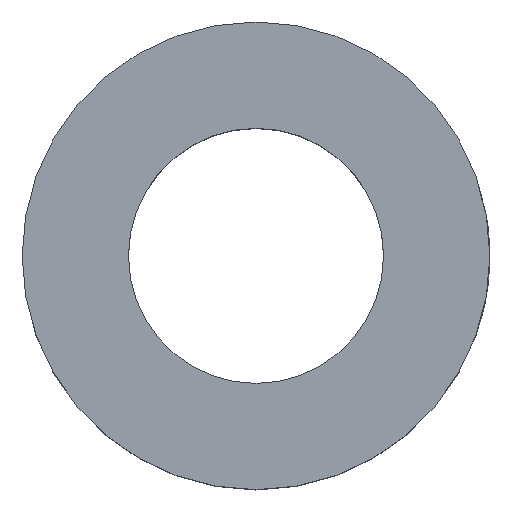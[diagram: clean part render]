
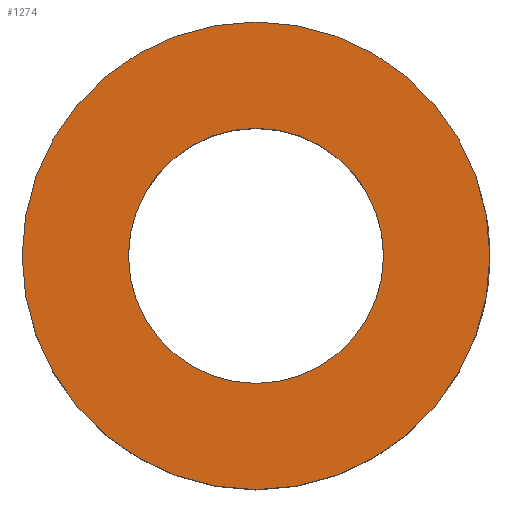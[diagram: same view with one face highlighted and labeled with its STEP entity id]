
A CAD part, top view. The second image highlights one B-rep face of the part: STEP entity #1274.
In plain terms, the highlighted planar face has unit normal (0, 0, 1).
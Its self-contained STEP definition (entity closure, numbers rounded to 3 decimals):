
#372 = CIRCLE ( 'NONE', #481, 4.5 ) ;
#376 = DIRECTION ( 'NONE',  ( 1., 0., 0. ) ) ;
#399 = DIRECTION ( 'NONE',  ( 0., 0., 1. ) ) ;
#400 = AXIS2_PLACEMENT_3D ( 'NONE', #478, #399, #376 ) ;
#436 = CARTESIAN_POINT ( 'NONE',  ( 8.25, 0., 6. ) ) ;
#441 = CARTESIAN_POINT ( 'NONE',  ( -4.5, 0., 6. ) ) ;
#442 = CARTESIAN_POINT ( 'NONE',  ( 4.5, 0., 6. ) ) ;
#476 = DIRECTION ( 'NONE',  ( 1., 0., 0. ) ) ;
#477 = CIRCLE ( 'NONE', #400, 8.25 ) ;
#478 = CARTESIAN_POINT ( 'NONE',  ( 0., 0., 6. ) ) ;
#479 = DIRECTION ( 'NONE',  ( 0., 0., 1. ) ) ;
#480 = CARTESIAN_POINT ( 'NONE',  ( 0., 0., 6. ) ) ;
#481 = AXIS2_PLACEMENT_3D ( 'NONE', #480, #479, #476 ) ;
#687 = FACE_OUTER_BOUND ( 'NONE', #1197, .T. ) ;
#715 = AXIS2_PLACEMENT_3D ( 'NONE', #770, #769, #768 ) ;
#720 = PLANE ( 'NONE',  #715 ) ;
#734 = CARTESIAN_POINT ( 'NONE',  ( -8.25, 0., 6. ) ) ;
#768 = DIRECTION ( 'NONE',  ( 1., 0., 0. ) ) ;
#769 = DIRECTION ( 'NONE',  ( 0., 0., 1. ) ) ;
#770 = CARTESIAN_POINT ( 'NONE',  ( 0., 0., 6. ) ) ;
#810 = FACE_BOUND ( 'NONE', #1194, .T. ) ;
#1065 = DIRECTION ( 'NONE',  ( 1., 0., 0. ) ) ;
#1066 = DIRECTION ( 'NONE',  ( 0., 0., 1. ) ) ;
#1067 = CARTESIAN_POINT ( 'NONE',  ( 0., 0., 6. ) ) ;
#1068 = AXIS2_PLACEMENT_3D ( 'NONE', #1067, #1066, #1065 ) ;
#1069 = CIRCLE ( 'NONE', #1068, 4.5 ) ;
#1117 = CARTESIAN_POINT ( 'NONE',  ( 0., 0., 6. ) ) ;
#1118 = CIRCLE ( 'NONE', #1136, 8.25 ) ;
#1134 = DIRECTION ( 'NONE',  ( 1., 0., 0. ) ) ;
#1135 = DIRECTION ( 'NONE',  ( 0., 0., 1. ) ) ;
#1136 = AXIS2_PLACEMENT_3D ( 'NONE', #1117, #1135, #1134 ) ;
#1191 = EDGE_CURVE ( 'NONE', #1367, #1368, #1069, .T. ) ;
#1192 = ORIENTED_EDGE ( 'NONE', *, *, #1370, .F. ) ;
#1193 = ORIENTED_EDGE ( 'NONE', *, *, #1191, .F. ) ;
#1194 = EDGE_LOOP ( 'NONE', ( #1192, #1193 ) ) ;
#1195 = ORIENTED_EDGE ( 'NONE', *, *, #1353, .T. ) ;
#1196 = ORIENTED_EDGE ( 'NONE', *, *, #1256, .T. ) ;
#1197 = EDGE_LOOP ( 'NONE', ( #1196, #1195 ) ) ;
#1256 = EDGE_CURVE ( 'NONE', #1304, #1354, #1118, .T. ) ;
#1274 = ADVANCED_FACE ( 'NONE', ( #687, #810 ), #720, .T. ) ;
#1304 = VERTEX_POINT ( 'NONE', #734 ) ;
#1353 = EDGE_CURVE ( 'NONE', #1354, #1304, #477, .T. ) ;
#1354 = VERTEX_POINT ( 'NONE', #436 ) ;
#1367 = VERTEX_POINT ( 'NONE', #442 ) ;
#1368 = VERTEX_POINT ( 'NONE', #441 ) ;
#1370 = EDGE_CURVE ( 'NONE', #1368, #1367, #372, .T. ) ;
